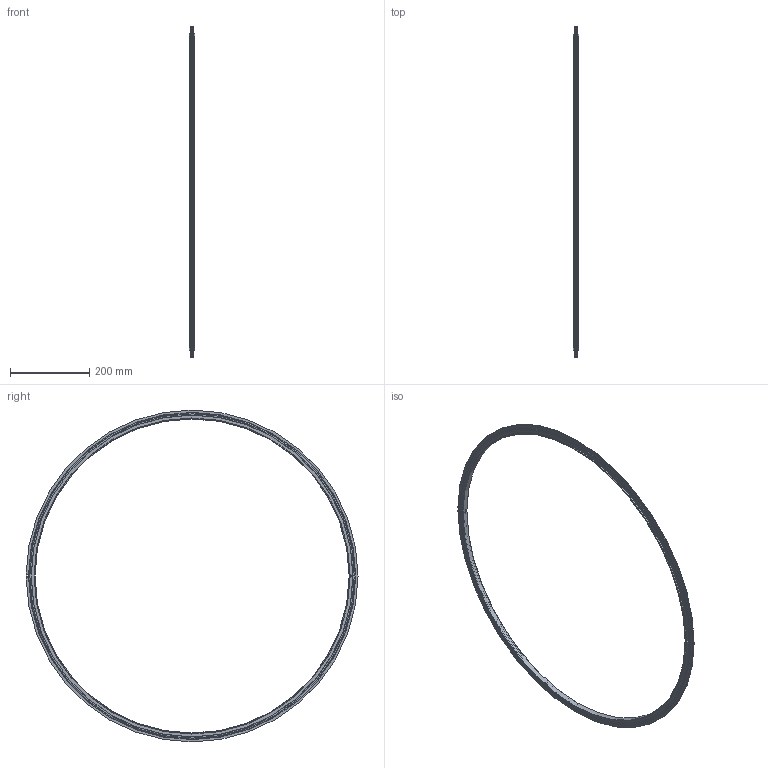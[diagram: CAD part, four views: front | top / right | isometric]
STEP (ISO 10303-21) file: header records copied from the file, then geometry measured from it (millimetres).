
FILE_DESCRIPTION((''),'2;1');
FILE_NAME('N:\Transfer\Berger Martin\Leybold\C13\26850.stp','2005-02-08T10:48:20',('PESO'),(''),'Autodesk Inventor 9','Autodesk Inventor 9','');
FILE_SCHEMA(('AUTOMOTIVE_DESIGN { 1 0 10303 214 1 1 1 1 }'));
Length unit declared in the file: millimetre
Products named in the file (1): 26850
Bounding box: 14 x 840.4 x 840 mm (x, y, z)
Volume: 350812.8 mm3; surface area: 199014.7 mm2
Topology: 2 solids, 2 shells, 66 faces, 189 edges, 127 vertices
Faces by surface type: cylinder 28, plane 18, torus 12, bspline 4, cone 4
Entity records: 2612 total; most frequent: CARTESIAN_POINT 731, DIRECTION 427, ORIENTED_EDGE 394, EDGE_CURVE 197, AXIS2_PLACEMENT_3D 179, VERTEX_POINT 127, CIRCLE 116, VECTOR 69
